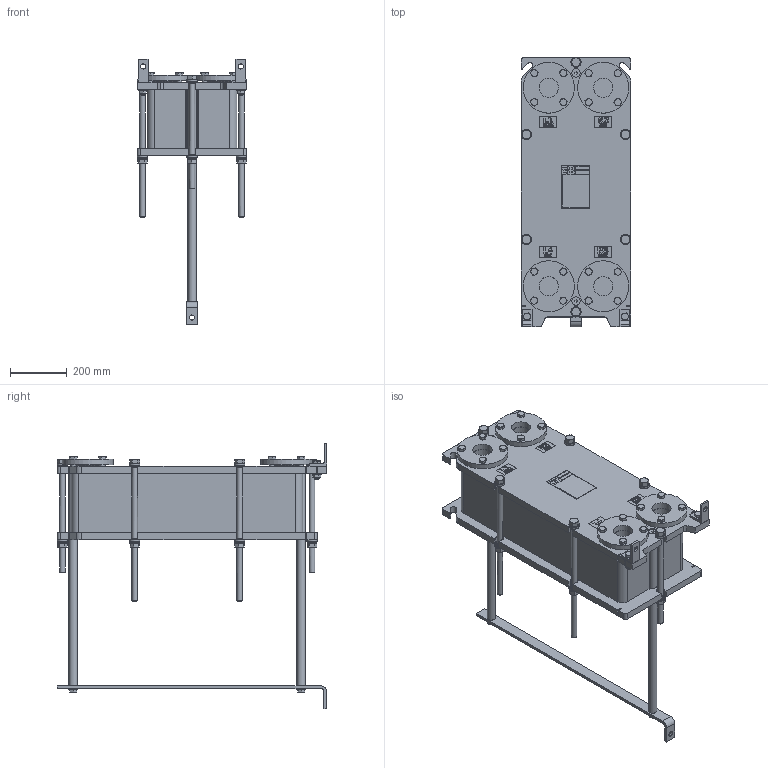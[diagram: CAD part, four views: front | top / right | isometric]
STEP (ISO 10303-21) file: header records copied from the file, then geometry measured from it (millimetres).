
FILE_DESCRIPTION (( 'STEP AP214' ), '1' );
FILE_NAME ('ÏÒ N65 ðåä 7 ê ñèãìà 81...110.STEP', '2021-04-11T16:35:31', ( '' ), ( '' ), 'SwSTEP 2.0', 'SolidWorks 2018', '' );
FILE_SCHEMA (( 'AUTOMOTIVE_DESIGN' ));
Length unit declared in the file: millimetre
Products named in the file (3): ÏÒ N65 ðåä 7 ê ñèãìà 81...110; ÏÒ N65 ðåä 7 ê ñèãìà1; ÏÒ N65 ðåä 7 ê ñèãìà2 81...110
Assembly tree (2 placements, depth 2):
  ÏÒ N65 ðåä 7 ê ñèãìà 81...110
    ÏÒ N65 ðåä 7 ê ñèãìà2 81...110
    ÏÒ N65 ðåä 7 ê ñèãìà1
Bounding box: 385 x 950 x 935 mm (x, y, z)
Volume: 72223240.2 mm3; surface area: 3503923.2 mm2
Topology: 28 solids, 34 shells, 2008 faces, 4903 edges, 3126 vertices
Faces by surface type: plane 1024, cone 434, bspline 275, cylinder 241, torus 34
Full cylindrical faces by diameter (mm): 16 x44, 17 x4, 18 x25, 20 x12, 21 x12, 27 x12, 29.48 x2, 30 x8, 36 x12, 68 x12, 68.01 x4, 121 x4, 180 x4
Entity records: 87785 total; most frequent: CARTESIAN_POINT 23642, ORIENTED_EDGE 8964, DIRECTION 7784, EDGE_CURVE 4482, VERTEX_POINT 3028, AXIS2_PLACEMENT_3D 2714, EDGE_LOOP 2600, VECTOR 2356
